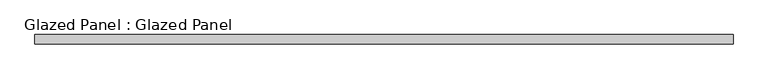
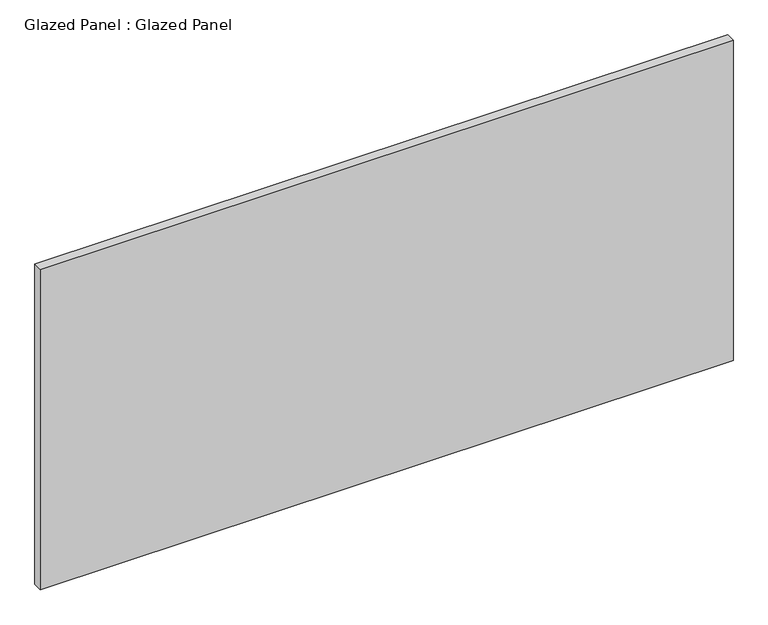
"""IFC4 building model written with IfcOpenShell, lengths in millimetres: plate geometry, Glazed Panel : Glazed Panel."""

from ifc_helpers import new_model, si_unit, origin, origin_with_axes, place, context, project, spatial, polyline, outline, extrude, source, transform, mapped, element, save


def glazed_panel_glazed_panel_5b8a13f5(model_context):
    return source(origin(), model_context, "Body", "SweptSolid", [
        extrude(outline(polyline([(941.0828467, 38.1), (-941.0828467, 38.1), (-941.0828467, 63.5), (941.0828467, 63.5), (941.0828467, 38.1)])), origin_with_axes(), (0.0, 0.0, 1.0), 920.75),
    ])


if __name__ == "__main__":
    model = new_model("IFC4")
    model_context = context("Model", 3, world=origin())
    ifc_project = project(units=[si_unit("LENGTHUNIT", "METRE", prefix="MILLI")], contexts=[model_context])
    site = spatial("IfcSite", under=ifc_project)
    building = spatial("IfcBuilding", under=site)
    placement = place(None, origin())
    glazed_panel_glazed_panel_shape = glazed_panel_glazed_panel_5b8a13f5(model_context)
    element("IfcPlate", 1, ObjectType="Glazed Panel : Glazed Panel", at=placement, inside=building, context=model_context, shape_type="MappedRepresentation", body=[
        mapped(glazed_panel_glazed_panel_shape, transform((0.0, 0.0, 0.0), x_axis=(1.0, 0.0, 0.0), y_axis=(0.0, 1.0, 0.0), z_axis=(0.0, 0.0, 1.0))),
    ])
    save(model, "model.ifc")
